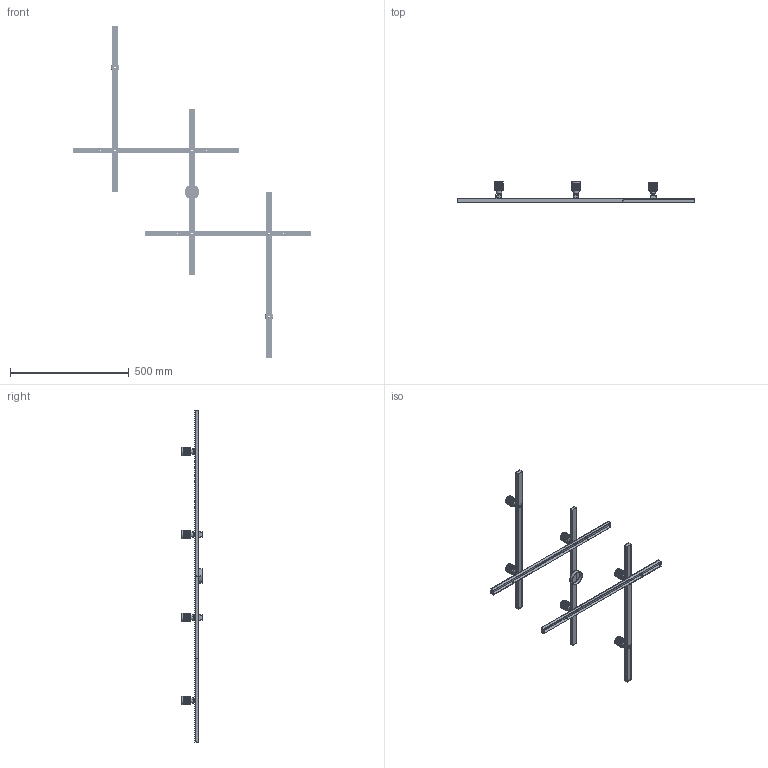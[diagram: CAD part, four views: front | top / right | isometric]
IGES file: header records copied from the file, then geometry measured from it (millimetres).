
Start section: SolidWorks IGES file using analytic representation for surfaces
Global section: file name: C:\Users\Agus\Desktop\AROMAS\a1259-6\A1259-6.IGS; native system: SolidWorks 2018; preprocessor: SolidWorks 2018; author: Agus; date: 220228.131313; units: millimetre
Bounding box: 1000 x 85 x 1400 mm (x, y, z)
Surface area: 533181.6 mm2 (no closed solid volume)
Topology: 0 solids, 0 shells, 641 faces, 16684 edges, 16684 vertices
Faces by surface type: revolution 430, bspline 211
